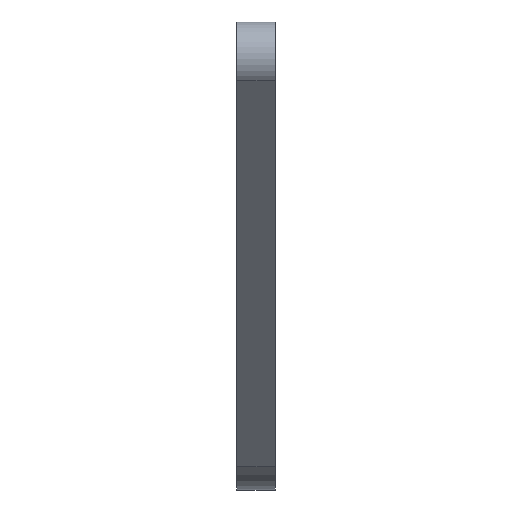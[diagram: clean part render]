
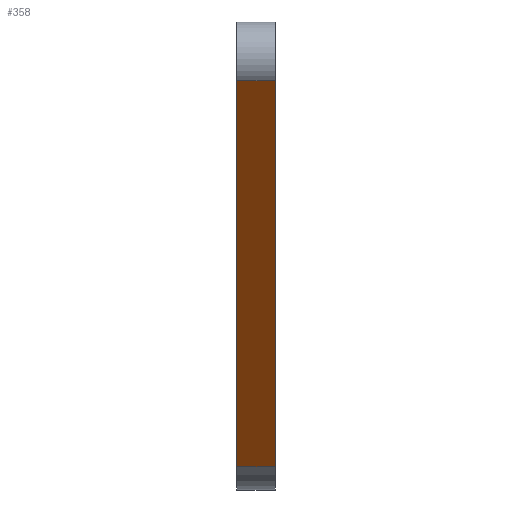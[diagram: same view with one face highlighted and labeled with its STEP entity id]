
A CAD part, top view. The second image highlights one B-rep face of the part: STEP entity #358.
In plain terms, the highlighted planar face has unit normal (0, -0.66, 0.751).
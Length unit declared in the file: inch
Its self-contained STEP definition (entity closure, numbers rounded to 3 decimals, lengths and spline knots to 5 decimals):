
#8 = ORIENTED_EDGE ( 'NONE', *, *, #34, .F. ) ;
#24 = LINE ( 'NONE', #57, #290 ) ;
#29 = EDGE_CURVE ( 'NONE', #299, #47, #360, .T. ) ;
#31 = DIRECTION ( 'NONE',  ( 0., -0.751, -0.66 ) ) ;
#34 = EDGE_CURVE ( 'NONE', #229, #396, #24, .T. ) ;
#47 = VERTEX_POINT ( 'NONE', #189 ) ;
#50 = ORIENTED_EDGE ( 'NONE', *, *, #181, .T. ) ;
#57 = CARTESIAN_POINT ( 'NONE',  ( 9.99528, -10.5381, 9.76455 ) ) ;
#85 = DIRECTION ( 'NONE',  ( -1., 0., 0. ) ) ;
#96 = CARTESIAN_POINT ( 'NONE',  ( 9.99528, -10.5381, 9.76455 ) ) ;
#97 = EDGE_CURVE ( 'NONE', #299, #229, #284, .T. ) ;
#102 = DIRECTION ( 'NONE',  ( 0., -0.751, -0.66 ) ) ;
#126 = CARTESIAN_POINT ( 'NONE',  ( 9.99528, -4.57498, 15.0085 ) ) ;
#134 = CARTESIAN_POINT ( 'NONE',  ( 9.40472, -7.55654, 12.38653 ) ) ;
#173 = PLANE ( 'NONE',  #308 ) ;
#176 = EDGE_LOOP ( 'NONE', ( #50, #8, #234, #212 ) ) ;
#181 = EDGE_CURVE ( 'NONE', #47, #396, #339, .T. ) ;
#188 = DIRECTION ( 'NONE',  ( -1., 0., 0. ) ) ;
#189 = CARTESIAN_POINT ( 'NONE',  ( 9.40472, -4.57498, 15.0085 ) ) ;
#191 = VECTOR ( 'NONE', #31, 39.37008 ) ;
#199 = CARTESIAN_POINT ( 'NONE',  ( 9.99528, -7.55654, 12.38653 ) ) ;
#206 = CARTESIAN_POINT ( 'NONE',  ( 9.99528, -7.55654, 12.38653 ) ) ;
#212 = ORIENTED_EDGE ( 'NONE', *, *, #29, .T. ) ;
#213 = DIRECTION ( 'NONE',  ( -1., 0., 0. ) ) ;
#229 = VERTEX_POINT ( 'NONE', #96 ) ;
#234 = ORIENTED_EDGE ( 'NONE', *, *, #97, .F. ) ;
#278 = VECTOR ( 'NONE', #102, 39.37008 ) ;
#284 = LINE ( 'NONE', #199, #191 ) ;
#288 = DIRECTION ( 'NONE',  ( 0., 0.66, -0.751 ) ) ;
#290 = VECTOR ( 'NONE', #188, 39.37008 ) ;
#299 = VERTEX_POINT ( 'NONE', #326 ) ;
#308 = AXIS2_PLACEMENT_3D ( 'NONE', #206, #288, #85 ) ;
#322 = VECTOR ( 'NONE', #213, 39.37008 ) ;
#324 = CARTESIAN_POINT ( 'NONE',  ( 9.40472, -10.5381, 9.76455 ) ) ;
#326 = CARTESIAN_POINT ( 'NONE',  ( 9.99528, -4.57498, 15.0085 ) ) ;
#339 = LINE ( 'NONE', #134, #278 ) ;
#349 = FACE_OUTER_BOUND ( 'NONE', #176, .T. ) ;
#358 = ADVANCED_FACE ( 'NONE', ( #349 ), #173, .F. ) ;
#360 = LINE ( 'NONE', #126, #322 ) ;
#396 = VERTEX_POINT ( 'NONE', #324 ) ;
